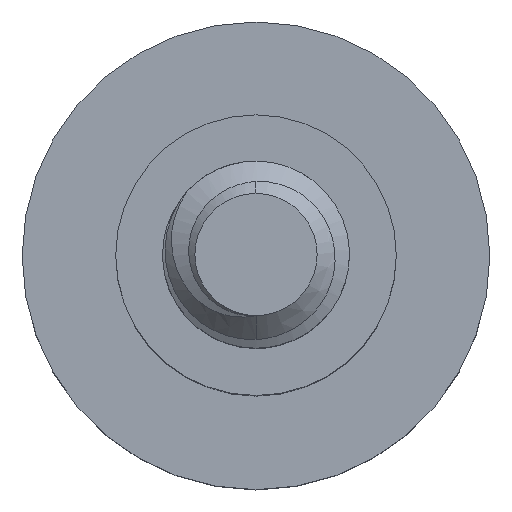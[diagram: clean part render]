
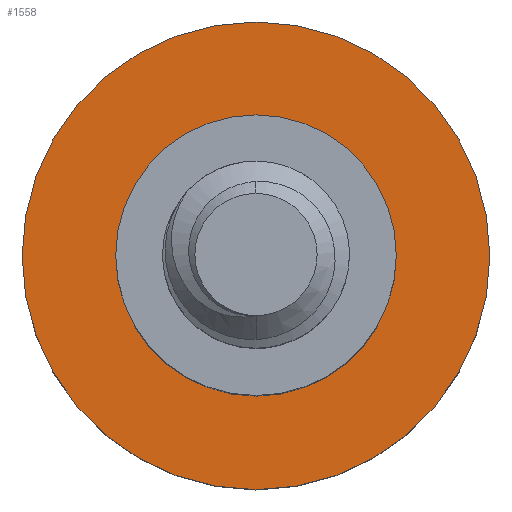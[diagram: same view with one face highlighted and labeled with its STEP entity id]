
A CAD part, top view. The second image highlights one B-rep face of the part: STEP entity #1558.
In plain terms, the highlighted planar face has unit normal (0, 0, 1).
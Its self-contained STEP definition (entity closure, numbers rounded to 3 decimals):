
#14 = PLANE ( 'NONE',  #381 ) ;
#22 = DIRECTION ( 'NONE',  ( 0., 0., -1. ) ) ;
#62 = CIRCLE ( 'NONE', #1716, 2.5 ) ;
#139 = CIRCLE ( 'NONE', #455, 1.5 ) ;
#215 = AXIS2_PLACEMENT_3D ( 'NONE', #2462, #1941, #1314 ) ;
#328 = DIRECTION ( 'NONE',  ( 0., 0., -1. ) ) ;
#381 = AXIS2_PLACEMENT_3D ( 'NONE', #2483, #328, #753 ) ;
#455 = AXIS2_PLACEMENT_3D ( 'NONE', #2278, #1216, #605 ) ;
#566 = DIRECTION ( 'NONE',  ( -1., 0., 0. ) ) ;
#570 = DIRECTION ( 'NONE',  ( -1., 0., 0. ) ) ;
#605 = DIRECTION ( 'NONE',  ( -1., 0., 0. ) ) ;
#708 = CARTESIAN_POINT ( 'NONE',  ( 2.5, 0., -4. ) ) ;
#753 = DIRECTION ( 'NONE',  ( -1., 0., 0. ) ) ;
#761 = CARTESIAN_POINT ( 'NONE',  ( 0., 0., -4. ) ) ;
#778 = CARTESIAN_POINT ( 'NONE',  ( 1.5, 0., -4. ) ) ;
#875 = ORIENTED_EDGE ( 'NONE', *, *, #2341, .F. ) ;
#931 = ORIENTED_EDGE ( 'NONE', *, *, #1533, .F. ) ;
#935 = EDGE_LOOP ( 'NONE', ( #1041, #2072 ) ) ;
#984 = AXIS2_PLACEMENT_3D ( 'NONE', #761, #22, #566 ) ;
#1006 = VERTEX_POINT ( 'NONE', #778 ) ;
#1041 = ORIENTED_EDGE ( 'NONE', *, *, #2356, .T. ) ;
#1107 = CARTESIAN_POINT ( 'NONE',  ( -1.5, 0., -4. ) ) ;
#1168 = DIRECTION ( 'NONE',  ( 0., 0., -1. ) ) ;
#1195 = CIRCLE ( 'NONE', #984, 2.5 ) ;
#1216 = DIRECTION ( 'NONE',  ( 0., 0., -1. ) ) ;
#1314 = DIRECTION ( 'NONE',  ( -1., 0., 0. ) ) ;
#1427 = CARTESIAN_POINT ( 'NONE',  ( -2.5, 0., -4. ) ) ;
#1505 = FACE_BOUND ( 'NONE', #935, .T. ) ;
#1533 = EDGE_CURVE ( 'NONE', #2006, #2213, #62, .T. ) ;
#1558 = ADVANCED_FACE ( 'NONE', ( #1505, #1743 ), #14, .F. ) ;
#1640 = EDGE_CURVE ( 'NONE', #1006, #2167, #139, .T. ) ;
#1716 = AXIS2_PLACEMENT_3D ( 'NONE', #2290, #1168, #570 ) ;
#1743 = FACE_OUTER_BOUND ( 'NONE', #2402, .T. ) ;
#1941 = DIRECTION ( 'NONE',  ( 0., 0., -1. ) ) ;
#2006 = VERTEX_POINT ( 'NONE', #1427 ) ;
#2072 = ORIENTED_EDGE ( 'NONE', *, *, #1640, .T. ) ;
#2167 = VERTEX_POINT ( 'NONE', #1107 ) ;
#2213 = VERTEX_POINT ( 'NONE', #708 ) ;
#2278 = CARTESIAN_POINT ( 'NONE',  ( 0., 0., -4. ) ) ;
#2290 = CARTESIAN_POINT ( 'NONE',  ( 0., 0., -4. ) ) ;
#2341 = EDGE_CURVE ( 'NONE', #2213, #2006, #1195, .T. ) ;
#2356 = EDGE_CURVE ( 'NONE', #2167, #1006, #2392, .T. ) ;
#2392 = CIRCLE ( 'NONE', #215, 1.5 ) ;
#2402 = EDGE_LOOP ( 'NONE', ( #875, #931 ) ) ;
#2462 = CARTESIAN_POINT ( 'NONE',  ( 0., 0., -4. ) ) ;
#2483 = CARTESIAN_POINT ( 'NONE',  ( 0., 0., -4. ) ) ;
